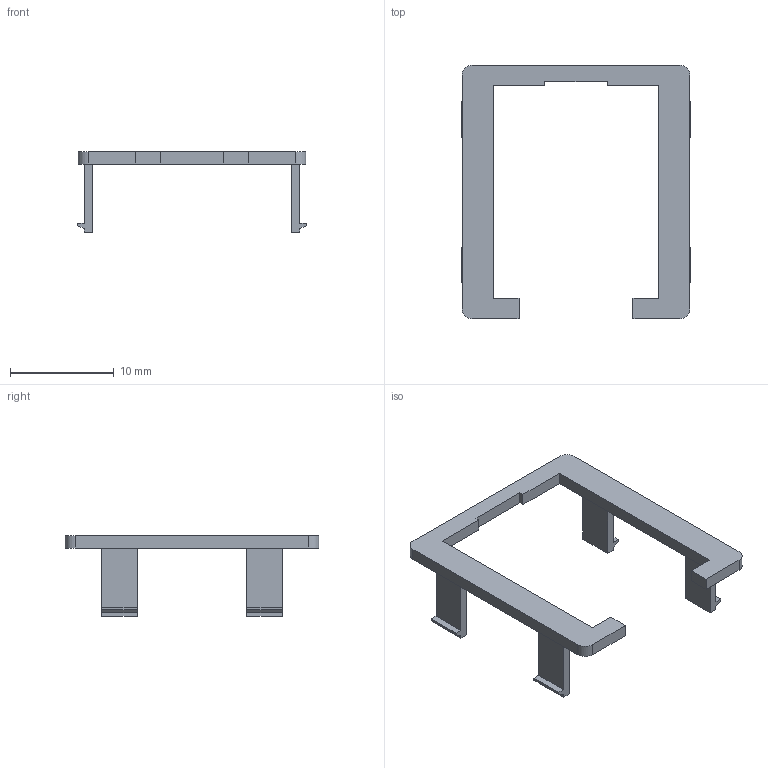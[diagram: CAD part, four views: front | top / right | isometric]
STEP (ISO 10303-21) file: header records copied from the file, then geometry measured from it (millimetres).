
FILE_DESCRIPTION(('Open CASCADE Model'),'2;1');
FILE_NAME('Open CASCADE Shape Model','2026-10-01T12:35:22',('Author'),( 'Open CASCADE'),'Open CASCADE STEP processor 7.8','Open CASCADE 7.8' ,'Unknown');
FILE_SCHEMA(('AUTOMOTIVE_DESIGN { 1 0 10303 214 1 1 1 1 }'));
Length unit declared in the file: millimetre
Products named in the file (2): P06_C3_snap_cap; P06_C3_snap_cap_solid
Assembly tree (1 placements, depth 2):
  P06_C3_snap_cap
    P06_C3_snap_cap_solid
Bounding box: 22.1 x 24.5 x 7.8 mm (x, y, z)
Volume: 298.2 mm3; surface area: 786.4 mm2
Topology: 1 solids, 1 shells, 58 faces, 156 edges, 104 vertices
Faces by surface type: plane 54, cylinder 4
Entity records: 3773 total; most frequent: CARTESIAN_POINT 748, DIRECTION 500, LINE 360, VECTOR 360, ORIENTED_EDGE 312, PCURVE 312, DEFINITIONAL_REPRESENTATION 312, EDGE_CURVE 156
